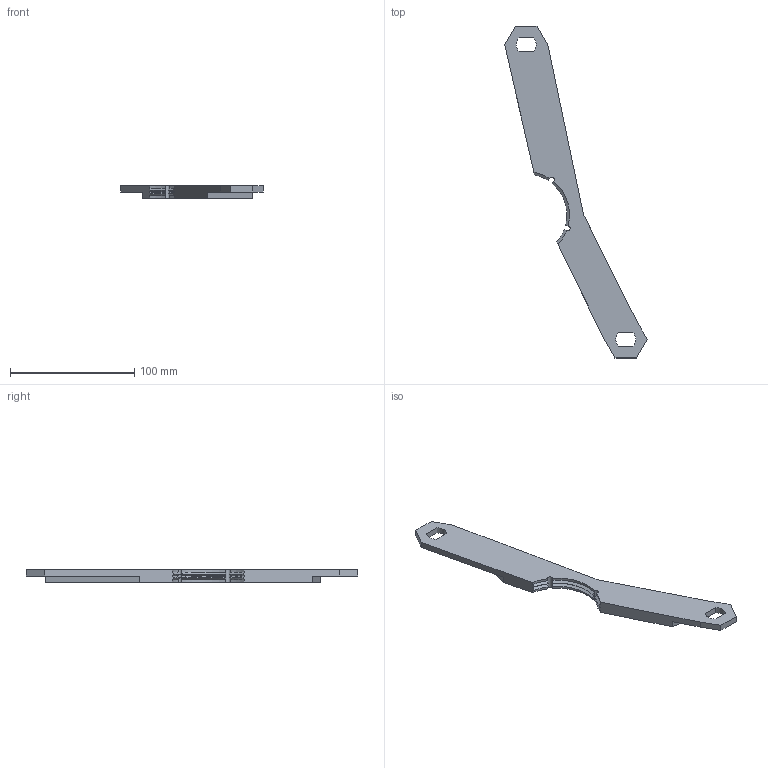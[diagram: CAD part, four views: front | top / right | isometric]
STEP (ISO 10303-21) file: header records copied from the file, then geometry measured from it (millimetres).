
FILE_DESCRIPTION(/* description */ (''),/* implementation_level */ '2;1');
FILE_NAME(/* name */ 'D:/Dokumenty/3D/Luke''s 3D/Projects/Spool winder v3/STEP/Side.step',/* time_stamp */ '2021-11-14T13:08:18+01:00',/* author */ (''),/* organization */ (''),/* preprocessor_version */ 'ST-DEVELOPER v18.1',/* originating_system */ 'Autodesk Translation Framework v10.10.0.1391',/* authorisation */ '');
FILE_SCHEMA (('AUTOMOTIVE_DESIGN { 1 0 10303 214 3 1 1 }'));
Length unit declared in the file: millimetre
Products named in the file (7): Spool winder 2; Side; trojuholnik; Boky; Component8; SCREWS; SCREW
Assembly tree (6 placements, depth 5):
  Spool winder 2
    Side
      trojuholnik
        Boky
          Component8
    SCREWS
      SCREW
Bounding box: 114.64 x 266.85 x 10 mm (x, y, z)
Volume: 62310.5 mm3; surface area: 21267.2 mm2
Topology: 1 solids, 1 shells, 52 faces, 154 edges, 104 vertices
Faces by surface type: plane 25, cylinder 15, cone 12
Entity records: 1958 total; most frequent: CARTESIAN_POINT 471, ORIENTED_EDGE 308, DIRECTION 276, EDGE_CURVE 154, VERTEX_POINT 104, AXIS2_PLACEMENT_3D 93, LINE 90, VECTOR 90
